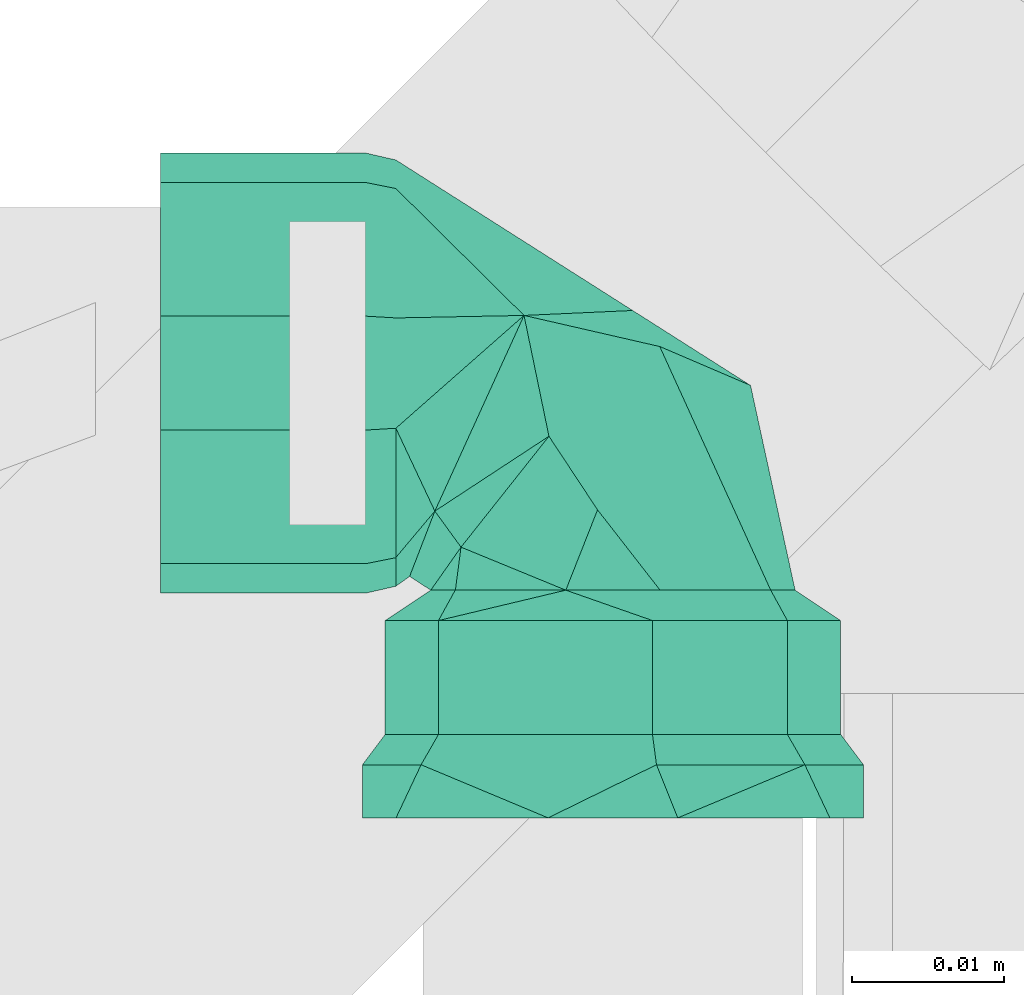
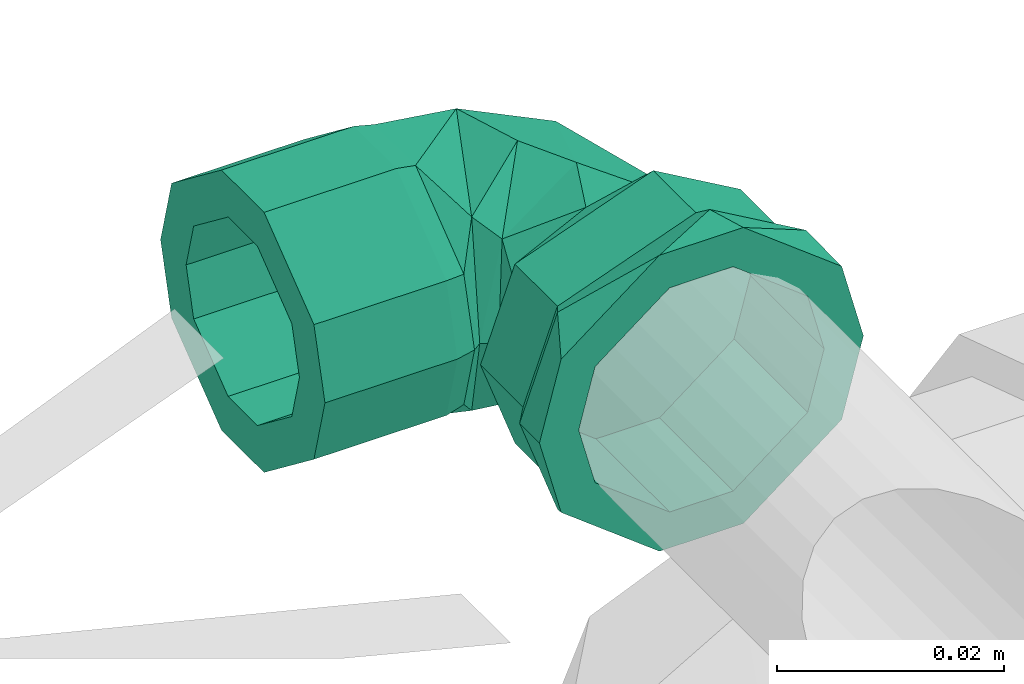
# One storey, part 377 of 589: 1 flow fitting.
"""IFC2X3 building model written with IfcOpenShell, lengths in millimetres."""

import ifcopenshell
import ifcopenshell.guid

model = None  # the IFC model being written
_history = None  # IfcOwnerHistory: only IFC2X3 demands one
_inside = {}  # id of a spatial element -> (the spatial element, [elements in it])
_under = {}  # id of a project, library or spatial element -> (it, [spatial elements below it])
_declared = {}  # id of a project -> (the project, [libraries it declares])
_typed = {}  # id of a type object -> (the type object, [elements of that type])
_made_of = {}  # id of a material, layer set ... -> (it, [elements and type objects made of it])


def new_model(schema):
    """Start an empty IFC model of exactly this schema.

    Asked for "IFC4X3", IfcOpenShell would pick the latest addendum, in which some entities
    have other attributes; the version numbers below select the first issue.
    IFC2X3 requires an IfcOwnerHistory on every rooted entity: one is made here for all.
    """
    global model, _history
    if schema == "IFC4X3":
        model = ifcopenshell.file(schema_version=(4, 3, 0, 0))
    else:
        model = ifcopenshell.file(schema=schema)
    _inside.clear()
    _under.clear()
    _declared.clear()
    _typed.clear()
    _made_of.clear()
    _history = None
    if model.schema == "IFC2X3":
        org = make("IfcOrganization", Name="unknown")
        user = make(
            "IfcPersonAndOrganization",
            ThePerson=make("IfcPerson", FamilyName="unknown"),
            TheOrganization=org,
        )
        app = make(
            "IfcApplication",
            ApplicationDeveloper=org,
            Version="unknown",
            ApplicationFullName="unknown",
            ApplicationIdentifier="unknown",
        )
        _history = make(
            "IfcOwnerHistory",
            OwningUser=user,
            OwningApplication=app,
            ChangeAction="ADDED",
            CreationDate=0,
        )
    return model


def make(cls, **values):
    """One entity of the class cls with the attributes given. An attribute that is None is left unset."""
    return model.create_entity(
        cls, **{name: value for name, value in values.items() if value is not None}
    )


def entity(cls, *values):
    """Any entity or typed value of the class cls, its attributes in the order of the schema. None: left unset."""
    e = model.create_entity(cls)
    for i, value in enumerate(values):
        if value is not None:
            e[i] = value
    return e


def rooted(cls, **values):
    """An entity with a GlobalId (a new one), such as an element, a storey or a relation."""
    return make(cls, GlobalId=ifcopenshell.guid.new(), OwnerHistory=_history, **values)


def si_unit(unit_type, name, prefix=None):
    """IfcSIUnit, for example si_unit("LENGTHUNIT", "METRE", prefix="MILLI")."""
    return make("IfcSIUnit", UnitType=unit_type, Prefix=prefix, Name=name)


def converted_unit(unit_type, name, factor, base, dimensions=None, offset=None):
    """IfcConversionBasedUnit, such as the inch: factor (a typed value) times the base unit."""
    return make(
        "IfcConversionBasedUnit"
        if offset is None
        else "IfcConversionBasedUnitWithOffset",
        ConversionOffset=offset,
        Dimensions=None
        if dimensions is None
        else entity("IfcDimensionalExponents", *dimensions),
        UnitType=unit_type,
        Name=name,
        ConversionFactor=make(
            "IfcMeasureWithUnit", ValueComponent=factor, UnitComponent=base
        ),
    )


def derived_unit(unit_type, elements):
    """IfcDerivedUnit: a product of units, each with its exponent."""
    return make(
        "IfcDerivedUnit",
        Elements=[
            make("IfcDerivedUnitElement", Unit=unit, Exponent=power)
            for unit, power in elements
        ],
        UnitType=unit_type,
    )


def assignment(units):
    """IfcUnitAssignment: the units of a project."""
    return None if units is None else make("IfcUnitAssignment", Units=units)


def point(xyz):
    """IfcCartesianPoint."""
    return None if xyz is None else make("IfcCartesianPoint", Coordinates=xyz)


def direction(xyz):
    """IfcDirection."""
    return None if xyz is None else make("IfcDirection", DirectionRatios=xyz)


def frame(location, z_axis=None, x_axis=None):
    """IfcAxis2Placement3D, a coordinate frame: its origin and axes. An axis left out is left unset."""
    return make(
        "IfcAxis2Placement3D",
        Location=point(location),
        Axis=direction(z_axis),
        RefDirection=direction(x_axis),
    )


def origin():
    """The frame at (0, 0, 0) with its axes left unset."""
    return frame((0.0, 0.0, 0.0))


def place(relative_to, where):
    """IfcLocalPlacement: puts the frame where relative to a parent placement (None: the world)."""
    return make(
        "IfcLocalPlacement", PlacementRelTo=relative_to, RelativePlacement=where
    )


def context(
    kind, dimensions, precision=None, world=None, true_north=None, identifier=None
):
    """IfcGeometricRepresentationContext, for example the 3D "Model" context."""
    return make(
        "IfcGeometricRepresentationContext",
        ContextIdentifier=identifier,
        ContextType=kind,
        CoordinateSpaceDimension=dimensions,
        Precision=precision,
        WorldCoordinateSystem=world,
        TrueNorth=true_north,
    )


def subcontext(parent, identifier, kind, view, scale=None):
    """IfcGeometricRepresentationSubContext, for example "Body" below "Model"."""
    return make(
        "IfcGeometricRepresentationSubContext",
        ContextIdentifier=identifier,
        ContextType=kind,
        ParentContext=parent,
        TargetScale=scale,
        TargetView=view,
    )


def project(units=None, contexts=None):
    """IfcProject with its units and contexts."""
    return rooted(
        "IfcProject",
        Name="project",
        RepresentationContexts=contexts,
        UnitsInContext=assignment(units),
    )


def spatial(cls, under=None, at=None, **own):
    """A site, building, storey or space (cls), placed at a placement, below another one or the project."""
    s = rooted(cls, ObjectPlacement=at, **own)
    if under is not None:
        _under.setdefault(under.id(), (under, []))[1].append(s)
    return s


def faces_of(points, faces, orient=None, outer=None):
    """IfcFace entities. A face is a list of loops; a loop is a list of indices into points, from 0.

    orient and outer hold one flag for each loop. By default every Orientation is true, the
    first loop of a face is its IfcFaceOuterBound and the others are IfcFaceBound.
    """
    made = []
    for i, loops in enumerate(faces):
        bounds = []
        for j, loop in enumerate(loops):
            is_outer = j == 0 if outer is None else outer[i][j]
            bounds.append(
                make(
                    "IfcFaceOuterBound" if is_outer else "IfcFaceBound",
                    Bound=make("IfcPolyLoop", Polygon=[points[k] for k in loop]),
                    Orientation=True if orient is None else orient[i][j],
                )
            )
        made.append(make("IfcFace", Bounds=bounds))
    return made


def faceted_brep(points, faces, orient=None, outer=None, voids=None):
    """IfcFacetedBrep: a solid bounded by flat faces; with voids (closed shells), ...WithVoids."""
    shared = [point(p) for p in points]
    hull = make("IfcClosedShell", CfsFaces=faces_of(shared, faces, orient, outer))
    if voids is None:
        return make("IfcFacetedBrep", Outer=hull)
    return make(
        "IfcFacetedBrepWithVoids",
        Outer=hull,
        Voids=[
            make(cls, CfsFaces=faces_of(shared, fs, o, b)) for cls, fs, o, b in voids
        ],
    )


def shape(context_of_items, identifier, shape_type, items):
    """IfcShapeRepresentation: the items that make up one representation, for example the "Body"."""
    return make(
        "IfcShapeRepresentation",
        ContextOfItems=context_of_items,
        RepresentationIdentifier=identifier,
        RepresentationType=shape_type,
        Items=items,
    )


def source(mapping_origin, context_of_items, identifier, shape_type, items):
    """IfcRepresentationMap: a shape defined once, which mapped items show again and again."""
    return make(
        "IfcRepresentationMap",
        MappingOrigin=mapping_origin,
        MappedRepresentation=shape(context_of_items, identifier, shape_type, items),
    )


def transform(
    local_origin,
    x_axis=None,
    y_axis=None,
    z_axis=None,
    scale=None,
    scale2=None,
    scale3=None,
    uniform=True,
):
    """IfcCartesianTransformationOperator3D, or its non-uniform kind. x_axis, y_axis, z_axis: its Axis1, 2, 3."""
    if uniform:
        return make(
            "IfcCartesianTransformationOperator3D",
            Axis1=direction(x_axis),
            Axis2=direction(y_axis),
            LocalOrigin=point(local_origin),
            Scale=scale,
            Axis3=direction(z_axis),
        )
    return make(
        "IfcCartesianTransformationOperator3DnonUniform",
        Axis1=direction(x_axis),
        Axis2=direction(y_axis),
        LocalOrigin=point(local_origin),
        Scale=scale,
        Axis3=direction(z_axis),
        Scale2=scale2,
        Scale3=scale3,
    )


def mapped(mapping_source, mapping_target):
    """IfcMappedItem: shows the shape of a source again, moved by a transform."""
    return make(
        "IfcMappedItem", MappingSource=mapping_source, MappingTarget=mapping_target
    )


def material(Name=None, Category=None):
    """IfcMaterial."""
    return make("IfcMaterial", Name=Name, Category=Category)


def made_of(thing, what):
    """Note that an element or type object is made of a material, layer set ...; save() writes the relation."""
    if what is not None:
        _made_of.setdefault(what.id(), (what, []))[1].append(thing)
    return thing


def type_object(cls, material=None, **own):
    """A type object (cls), such as IfcWallType, which elements share."""
    return made_of(rooted(cls, **own), material)


def type_shapes(of_type, sources):
    """Give a type object the sources (RepresentationMaps) that its elements show as mapped items."""
    of_type.RepresentationMaps = sources


def element(
    cls,
    number,
    at=None,
    inside=None,
    cuts=None,
    type_object=None,
    material=None,
    context=None,
    identifier="Body",
    shape_type=None,
    held_by="IfcProductDefinitionShape",
    body=None,
    shapes=None,
    **own,
):
    """One element of the class cls, such as IfcWall. Its Tag is "e" and its number.

    at: its placement. inside: the storey or other place that contains it. cuts: it is an
    opening in that element (IfcRelVoidsElement). A single representation is given by context,
    identifier, shape_type and body (its items); several are given by shapes. held_by: the class
    of the entity that holds the representations. save() writes the other relations.
    """
    e = rooted(cls, Tag="e%d" % number, ObjectPlacement=at, **own)
    if body is not None:
        shapes = [shape(context, identifier, shape_type, body)]
    if shapes is not None:
        e.Representation = make(held_by, Representations=shapes)
    if inside is not None:
        _inside.setdefault(inside.id(), (inside, []))[1].append(e)
    if cuts is not None:
        rooted(
            "IfcRelVoidsElement", RelatingBuildingElement=cuts, RelatedOpeningElement=e
        )
    if type_object is not None:
        _typed.setdefault(type_object.id(), (type_object, []))[1].append(e)
    return made_of(e, material)


def aggregate(whole, parts):
    """IfcRelAggregates: a whole, such as a stair, and the parts it consists of."""
    return rooted("IfcRelAggregates", RelatingObject=whole, RelatedObjects=parts)


def save(model, path):
    """Write the relations noted so far, then the file.

    IfcRelAggregates (storeys below a building ...), IfcRelContainedInSpatialStructure (elements
    in a storey), IfcRelDefinesByType, IfcRelAssociatesMaterial and IfcRelDeclares: one each for
    every whole, place, type object, material and project.
    """
    for whole, parts in _under.values():
        aggregate(whole, parts)
    for where, things in _inside.values():
        rooted(
            "IfcRelContainedInSpatialStructure",
            RelatedElements=things,
            RelatingStructure=where,
        )
    for kind, things in _typed.values():
        rooted("IfcRelDefinesByType", RelatedObjects=things, RelatingType=kind)
    for what, things in _made_of.values():
        rooted("IfcRelAssociatesMaterial", RelatedObjects=things, RelatingMaterial=what)
    for by, libraries in _declared.values():
        rooted("IfcRelDeclares", RelatingContext=by, RelatedDefinitions=libraries)
    model.write(path)


model = new_model("IFC2X3")

# Units and contexts
model_context = context("Model", 3, precision=0.01, world=origin(), true_north=direction((6.123031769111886e-17, 1.0)))
body_context = subcontext(model_context, "Body", "Model", "MODEL_VIEW")
ifc_project = project(units=[si_unit("LENGTHUNIT", "METRE", prefix="MILLI"), si_unit("AREAUNIT", "SQUARE_METRE"), si_unit("VOLUMEUNIT", "CUBIC_METRE"), converted_unit("PLANEANGLEUNIT", "DEGREE", entity("IfcRatioMeasure", 0.017453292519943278), si_unit("PLANEANGLEUNIT", "RADIAN"), dimensions=[0, 0, 0, 0, 0, 0, 0]), si_unit("MASSUNIT", "GRAM", prefix="KILO"), derived_unit("MASSDENSITYUNIT", [(si_unit("MASSUNIT", "GRAM", prefix="KILO"), 1), (si_unit("LENGTHUNIT", "METRE"), -3)]), derived_unit("IONCONCENTRATIONUNIT", [(si_unit("MASSUNIT", "GRAM", prefix="KILO"), 1), (si_unit("LENGTHUNIT", "METRE"), -3)]), derived_unit("MOMENTOFINERTIAUNIT", [(si_unit("LENGTHUNIT", "METRE"), 4)]), si_unit("TIMEUNIT", "SECOND"), si_unit("FREQUENCYUNIT", "HERTZ"), si_unit("THERMODYNAMICTEMPERATUREUNIT", "DEGREE_CELSIUS"), derived_unit("THERMALTRANSMITTANCEUNIT", [(si_unit("MASSUNIT", "GRAM", prefix="KILO"), 1), (si_unit("THERMODYNAMICTEMPERATUREUNIT", "KELVIN"), -1), (si_unit("TIMEUNIT", "SECOND"), -3)]), derived_unit("THERMALCONDUCTANCEUNIT", [(si_unit("MASSUNIT", "GRAM", prefix="KILO"), 1), (si_unit("THERMODYNAMICTEMPERATUREUNIT", "KELVIN"), -1), (si_unit("TIMEUNIT", "SECOND"), -3), (si_unit("LENGTHUNIT", "METRE"), 1)]), derived_unit("VOLUMETRICFLOWRATEUNIT", [(si_unit("LENGTHUNIT", "METRE"), 3), (si_unit("TIMEUNIT", "SECOND"), -1)]), derived_unit("MASSFLOWRATEUNIT", [(si_unit("MASSUNIT", "GRAM", prefix="KILO"), 1), (si_unit("TIMEUNIT", "SECOND"), -1)]), derived_unit("ROTATIONALFREQUENCYUNIT", [(si_unit("TIMEUNIT", "SECOND"), -1)]), si_unit("ELECTRICCURRENTUNIT", "AMPERE"), si_unit("ELECTRICVOLTAGEUNIT", "VOLT"), si_unit("POWERUNIT", "WATT"), si_unit("FORCEUNIT", "NEWTON", prefix="KILO"), si_unit("ILLUMINANCEUNIT", "LUX"), si_unit("LUMINOUSFLUXUNIT", "LUMEN"), si_unit("LUMINOUSINTENSITYUNIT", "CANDELA"), derived_unit("USERDEFINED", [(si_unit("MASSUNIT", "GRAM", prefix="KILO"), -1), (si_unit("LENGTHUNIT", "METRE"), -2), (si_unit("TIMEUNIT", "SECOND"), 3), (si_unit("LUMINOUSFLUXUNIT", "LUMEN"), 1)]), derived_unit("USERDEFINED", [(si_unit("MASSUNIT", "GRAM", prefix="KILO"), 1), (si_unit("TIMEUNIT", "SECOND"), -3), (si_unit("LENGTHUNIT", "METRE"), 3), (si_unit("ELECTRICCURRENTUNIT", "AMPERE"), -2)]), derived_unit("SOUNDPOWERUNIT", [(si_unit("MASSUNIT", "GRAM", prefix="KILO"), 1), (si_unit("TIMEUNIT", "SECOND"), -3), (si_unit("LENGTHUNIT", "METRE"), 2)]), derived_unit("SOUNDPRESSUREUNIT", [(si_unit("MASSUNIT", "GRAM", prefix="KILO"), 1), (si_unit("LENGTHUNIT", "METRE"), -1), (si_unit("TIMEUNIT", "SECOND"), -2)]), derived_unit("LINEARVELOCITYUNIT", [(si_unit("LENGTHUNIT", "METRE"), 1), (si_unit("TIMEUNIT", "SECOND"), -1)]), si_unit("PRESSUREUNIT", "PASCAL"), derived_unit("USERDEFINED", [(si_unit("MASSUNIT", "GRAM", prefix="KILO"), 1), (si_unit("LENGTHUNIT", "METRE"), -2), (si_unit("TIMEUNIT", "SECOND"), -2)]), derived_unit("LINEARFORCEUNIT", [(si_unit("MASSUNIT", "GRAM", prefix="KILO"), 1), (si_unit("TIMEUNIT", "SECOND"), -2)]), derived_unit("PLANARFORCEUNIT", [(si_unit("MASSUNIT", "GRAM", prefix="KILO"), 1), (si_unit("LENGTHUNIT", "METRE"), -1), (si_unit("TIMEUNIT", "SECOND"), -2)]), derived_unit("SPECIFICHEATCAPACITYUNIT", [(si_unit("THERMODYNAMICTEMPERATUREUNIT", "KELVIN"), -1), (si_unit("LENGTHUNIT", "METRE"), 2), (si_unit("TIMEUNIT", "SECOND"), -2)]), derived_unit("HEATINGVALUEUNIT", [(si_unit("LENGTHUNIT", "METRE"), 2), (si_unit("TIMEUNIT", "SECOND"), -2)]), derived_unit("VAPORPERMEABILITYUNIT", [(si_unit("LENGTHUNIT", "METRE"), -1), (si_unit("TIMEUNIT", "SECOND"), 1)]), derived_unit("DYNAMICVISCOSITYUNIT", [(si_unit("MASSUNIT", "GRAM", prefix="KILO"), 1), (si_unit("TIMEUNIT", "SECOND"), -1), (si_unit("LENGTHUNIT", "METRE"), -1)]), derived_unit("THERMALEXPANSIONCOEFFICIENTUNIT", [(si_unit("THERMODYNAMICTEMPERATUREUNIT", "KELVIN"), -1)]), derived_unit("MODULUSOFELASTICITYUNIT", [(si_unit("MASSUNIT", "GRAM", prefix="KILO"), 1), (si_unit("LENGTHUNIT", "METRE"), -1), (si_unit("TIMEUNIT", "SECOND"), -2)]), derived_unit("ISOTHERMALMOISTURECAPACITYUNIT", [(si_unit("LENGTHUNIT", "METRE"), 3), (si_unit("MASSUNIT", "GRAM", prefix="KILO"), -1)]), derived_unit("MOISTUREDIFFUSIVITYUNIT", [(si_unit("TIMEUNIT", "SECOND"), -1), (si_unit("LENGTHUNIT", "METRE"), 2)])], contexts=[model_context])

# Site, building, storey
site_placement = place(None, origin())
site = spatial("IfcSite", under=ifc_project, at=site_placement, Name="Default", CompositionType="ELEMENT")
building_placement = place(site_placement, origin())
building = spatial("IfcBuilding", under=site, at=building_placement, CompositionType="ELEMENT")
storey_placement = place(building_placement, frame((0.0, 0.0, 100.0)))
storey = spatial("IfcBuildingStorey", under=building, at=storey_placement, Name="TÉRREO", CompositionType="ELEMENT", Elevation=100.0)

# Flow fitting
ifc_material = material(Name="PVC Azul")
pipe_fitting_type = type_object("IfcPipeFittingType", Name="PVC Marrom Soldável_Joelho 90° Azul com Bucha de Latão_Rodrigo MEP:Joelho_20x1/2''_ 25x1/2''_ 25x3/4'' _ 32x3/4''", PredefinedType="NOTDEFINED", material=ifc_material)
shared_shape = source(origin(), body_context, "Body", "Brep", [
    faceted_brep([(-16.299999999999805, 3.7528761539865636, -14.005924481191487), (-16.299999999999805, 2.588190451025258, -9.659258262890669), (-16.299999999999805, -2.5881904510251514, -9.659258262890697), (-16.299999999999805, 12.557368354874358, -7.249999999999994), (-16.299999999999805, -3.7528761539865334, -14.005924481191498), (-16.299999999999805, 8.660254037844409, -5.0), (-16.299999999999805, 10.0, 0.0), (-16.299999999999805, 14.499999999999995, 0.0), (-16.299999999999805, 8.660254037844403, 5.0), (-16.299999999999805, 12.557368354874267, 7.250000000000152), (-16.299999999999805, 2.5881904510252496, 9.659258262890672), (-16.299999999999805, 3.752876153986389, 14.005924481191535), (-16.299999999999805, -2.5881904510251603, 9.659258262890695), (-16.299999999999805, -3.752876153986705, 14.005924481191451), (-16.299999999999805, -8.660254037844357, 5.0), (-16.299999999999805, -12.557368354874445, 7.2499999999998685), (-16.299999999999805, -14.500000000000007, 0.0), (-16.299999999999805, -10.0, 0.0), (-16.299999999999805, -12.557368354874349, -7.250000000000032), (-16.299999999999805, -8.660254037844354, -5.0), (-23.799999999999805, -12.557368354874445, 7.2499999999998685), (-25.7999999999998, -12.557368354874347, 7.250000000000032), (-29.7999999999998, -12.557368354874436, 7.24999999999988), (-29.7999999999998, -14.500000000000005, 0.0), (-25.7999999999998, -14.500000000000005, 0.0), (-23.799999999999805, -14.500000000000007, 0.0), (-23.799999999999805, -3.752876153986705, 14.005924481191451), (-25.7999999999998, -3.7528761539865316, 14.005924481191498), (-29.7999999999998, -3.7528761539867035, 14.005924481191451), (-23.799999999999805, 3.752876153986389, 14.005924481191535), (-25.7999999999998, 3.752876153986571, 14.005924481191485), (-29.7999999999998, 3.75287615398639, 14.005924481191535), (-23.799999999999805, 12.557368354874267, 7.250000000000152), (-25.7999999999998, 12.557368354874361, 7.24999999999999), (-29.7999999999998, 12.557368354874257, 7.250000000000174), (-23.799999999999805, 14.499999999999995, 0.0), (-25.7999999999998, 14.499999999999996, 0.0), (-29.7999999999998, 14.499999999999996, 0.0), (-23.799999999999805, 12.557368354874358, -7.249999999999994), (-25.7999999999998, 12.557368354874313, -7.250000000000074), (-29.7999999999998, 12.557368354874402, -7.249999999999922), (-23.799999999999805, 3.7528761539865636, -14.005924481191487), (-25.7999999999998, 3.752876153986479, -14.00592448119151), (-29.7999999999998, 3.752876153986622, -14.005924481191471), (-23.799999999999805, -3.7528761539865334, -14.005924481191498), (-25.7999999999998, -3.7528761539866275, -14.005924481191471), (-29.7999999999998, -3.752876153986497, -14.005924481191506), (-23.799999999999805, -12.557368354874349, -7.250000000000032), (-25.7999999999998, -12.55736835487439, -7.249999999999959), (-29.7999999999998, -12.557368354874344, -7.250000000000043), (-29.79999999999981, 10.0, 0.0), (-29.7999999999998, 8.660254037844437, 5.0), (-29.7999999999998, 2.5881904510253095, 9.659258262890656), (-29.7999999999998, -2.5881904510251, 9.659258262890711), (-29.7999999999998, -8.660254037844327, 5.0), (-29.7999999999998, -10.0, 0.0), (-29.7999999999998, -8.660254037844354, -5.0), (-29.7999999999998, -2.588190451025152, -9.659258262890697), (-29.7999999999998, 2.588190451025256, -9.659258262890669), (-29.7999999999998, 8.66025403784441, -5.0)], [[[0, 1, 2]], [[1, 0, 3]], [[2, 4, 0]], [[3, 5, 1]], [[3, 6, 5]], [[6, 3, 7]], [[8, 6, 7]], [[8, 7, 9]], [[9, 10, 8]], [[9, 11, 10]], [[10, 11, 12]], [[13, 12, 11]], [[13, 14, 12]], [[14, 13, 15]], [[16, 14, 15]], [[17, 14, 16]], [[18, 17, 16]], [[18, 19, 17]], [[19, 18, 4]], [[4, 2, 19]], [[20, 21, 22, 23, 24, 25, 16, 15]], [[26, 27, 28, 22, 21, 20, 15, 13]], [[13, 11, 29, 30, 31, 28, 27, 26]], [[32, 33, 34, 31, 30, 29, 11, 9]], [[35, 36, 37, 34, 33, 32, 9, 7]], [[38, 39, 40, 37, 36, 35, 7, 3]], [[41, 42, 43, 40, 39, 38, 3, 0]], [[0, 4, 44, 45, 46, 43, 42, 41]], [[47, 48, 49, 46, 45, 44, 4, 18]], [[25, 24, 23, 49, 48, 47, 18, 16]], [[50, 6, 8, 51]], [[51, 8, 10, 52]], [[10, 12, 53, 52]], [[53, 12, 14, 54]], [[54, 14, 17, 55]], [[55, 17, 19, 56]], [[56, 19, 2, 57]], [[2, 1, 58, 57]], [[58, 1, 5, 59]], [[59, 5, 6, 50]], [[57, 58, 43]], [[43, 46, 57]], [[56, 57, 46]], [[40, 43, 58]], [[58, 59, 40]], [[59, 50, 40]], [[37, 40, 50]], [[37, 50, 51]], [[34, 37, 51]], [[51, 52, 34]], [[52, 31, 34]], [[53, 31, 52]], [[31, 53, 28]], [[53, 54, 28]], [[22, 28, 54]], [[22, 54, 23]], [[23, 54, 55]], [[55, 56, 49]], [[23, 55, 49]], [[46, 49, 56]]]),
    faceted_brep([(-16.299999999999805, 14.499999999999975, 0.0), (-16.299999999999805, 12.557368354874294, -7.250000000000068), (-16.299999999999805, 3.7528761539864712, -14.005924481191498), (-16.299999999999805, -3.75287615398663, -14.005924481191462), (-16.299999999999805, -12.557368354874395, -7.249999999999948), (-16.299999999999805, -14.500000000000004, 0.0), (-16.299999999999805, -12.557368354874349, 7.250000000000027), (-16.299999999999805, -3.752876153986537, 14.005924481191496), (-16.299999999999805, 3.752876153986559, 14.005924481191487), (-16.299999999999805, 12.55736835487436, 7.249999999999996), (-14.299999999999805, 12.158996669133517, 7.019999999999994), (-14.299999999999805, 3.633819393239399, 13.561598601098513), (-14.299999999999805, -3.6338193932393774, 13.56159860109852), (-14.299999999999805, -12.158996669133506, 7.020000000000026), (-14.299999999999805, -14.040000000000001, 0.0), (-14.299999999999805, -12.158996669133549, -7.01999999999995), (-14.299999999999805, -3.633819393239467, -13.561598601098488), (-14.299999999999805, 3.6338193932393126, -13.561598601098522), (-14.299999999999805, 12.158996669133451, -7.020000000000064), (-14.299999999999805, 14.039999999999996, 0.0)], [[[0, 1, 2, 3, 4, 5, 6, 7, 8, 9]], [[10, 11, 12, 13, 14, 15, 16, 17, 18, 19]], [[15, 14, 5, 4]], [[16, 15, 4, 3]], [[3, 2, 17, 16]], [[18, 17, 2, 1]], [[19, 18, 1, 0]], [[10, 19, 0, 9]], [[11, 10, 9, 8]], [[8, 7, 12, 11]], [[13, 12, 7, 6]], [[14, 13, 6, 5]]]),
    faceted_brep([(10.392304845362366, -14.30000000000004, 6.0), (12.0, -14.30000000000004, 0.0), (10.392304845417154, -14.30000000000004, -6.0), (3.1058285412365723, -14.30000000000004, -11.591109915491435), (-3.105828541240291, -14.30000000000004, -11.591109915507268), (-10.392304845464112, -14.30000000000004, -6.0), (-12.0, -14.30000000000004, 0.0), (-10.392304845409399, -14.30000000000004, 6.0), (-3.1058285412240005, -14.30000000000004, 11.591109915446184), (3.105828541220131, -14.30000000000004, 11.59110991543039), (11.490129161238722, -16.29999999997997, -9.64245465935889), (15.0, -16.300000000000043, 0.0), (-2.606781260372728, -16.29999999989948, -14.771753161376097), (-15.0, -16.299999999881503, 0.0), (-11.492547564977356, -16.299999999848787, -9.639572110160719), (-11.4925475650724, -16.300000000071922, 9.639572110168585), (2.603075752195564, -16.30000000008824, 14.77240659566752), (11.490129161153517, -16.300000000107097, 9.642454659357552), (11.490129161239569, -23.800000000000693, 9.64245465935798), (15.0, -23.800000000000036, 0.0), (2.6030757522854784, -23.800000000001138, 14.772406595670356), (-15.0, -23.800000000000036, 0.0), (-11.492547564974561, -23.800000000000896, 9.63957211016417), (-11.492547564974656, -23.79999999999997, -9.639572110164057), (-2.606781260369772, -23.799999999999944, -14.77175316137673), (11.4901291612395, -23.799999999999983, -9.642454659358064), (-12.639142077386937, -25.800000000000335, 10.606700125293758), (-16.500000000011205, -25.800000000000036, 0.0), (2.867459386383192, -25.800000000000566, 16.248928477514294), (12.641802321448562, -25.800000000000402, 10.603529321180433), (16.499999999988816, -25.800000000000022, 0.0), (12.641802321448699, -25.800000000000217, -10.603529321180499), (-2.8633833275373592, -25.80000000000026, -16.24964725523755), (-12.639142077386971, -25.800000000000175, -10.606700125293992), (3.235238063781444, -29.30000000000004, -12.074072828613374), (-3.235238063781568, -29.30000000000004, -12.074072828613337), (-4.270514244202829, -29.30000000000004, -15.937776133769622), (4.27051424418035, -29.30000000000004, -15.937776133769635), (10.825317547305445, -29.30000000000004, -6.250000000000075), (-14.28941916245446, -29.30000000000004, -8.249999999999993), (-10.825317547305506, -29.30000000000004, -6.249999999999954), (-12.499999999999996, -29.30000000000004, 0.0), (-16.500000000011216, -29.30000000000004, 0.0), (-10.825317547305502, -29.30000000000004, 6.249999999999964), (-14.289419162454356, -29.30000000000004, 8.250000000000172), (-3.2352380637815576, -29.30000000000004, 12.074072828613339), (-4.27051424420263, -29.30000000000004, 15.937776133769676), (3.235238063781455, -29.30000000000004, 12.07407282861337), (4.2705142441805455, -29.30000000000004, 15.937776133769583), (10.82531754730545, -29.30000000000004, 6.250000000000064), (14.289419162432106, -29.30000000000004, 8.249999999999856), (16.499999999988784, -29.30000000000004, 0.0), (12.500000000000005, -29.30000000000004, 0.0), (14.289419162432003, -29.30000000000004, -8.250000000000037), (3.235238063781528, -16.30000000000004, -12.07407282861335), (10.82531754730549, -16.300000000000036, -6.249999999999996), (12.500000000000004, -16.300000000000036, 0.0), (10.825317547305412, -16.300000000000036, 6.250000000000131), (3.2352380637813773, -16.30000000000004, 12.07407282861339), (-3.2352380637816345, -16.30000000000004, 12.074072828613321), (-10.825317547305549, -16.300000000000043, 6.249999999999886), (-12.499999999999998, -16.300000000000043, 0.0), (-10.825317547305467, -16.300000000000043, -6.2500000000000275), (-3.2352380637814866, -16.30000000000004, -12.07407282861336)], [[[0, 1, 2, 3, 4, 5, 6, 7, 8, 9]], [[10, 3, 2]], [[11, 2, 1]], [[10, 2, 11]], [[10, 12, 3]], [[13, 6, 5]], [[14, 5, 4]], [[12, 14, 4]], [[13, 5, 14]], [[3, 12, 4]], [[15, 8, 7]], [[13, 7, 6]], [[15, 7, 13]], [[15, 16, 8]], [[11, 1, 0]], [[17, 0, 9]], [[16, 17, 9]], [[11, 0, 17]], [[8, 16, 9]], [[11, 17, 18, 19]], [[20, 18, 17, 16]], [[15, 13, 21, 22]], [[16, 15, 22, 20]], [[13, 14, 23, 21]], [[24, 23, 14, 12]], [[10, 11, 19, 25]], [[12, 10, 25, 24]], [[26, 20, 22]], [[27, 22, 21]], [[26, 22, 27]], [[26, 28, 20]], [[29, 19, 18]], [[18, 28, 29]], [[19, 29, 30]], [[20, 28, 18]], [[31, 25, 19]], [[19, 30, 31]], [[25, 31, 32]], [[32, 24, 25]], [[27, 21, 23]], [[24, 33, 23]], [[27, 23, 33]], [[32, 33, 24]], [[34, 35, 36]], [[36, 37, 34]], [[38, 34, 37]], [[39, 36, 35]], [[35, 40, 39]], [[40, 41, 39]], [[42, 39, 41]], [[42, 41, 43]], [[44, 42, 43]], [[43, 45, 44]], [[45, 46, 44]], [[47, 46, 45]], [[46, 47, 48]], [[47, 49, 48]], [[50, 48, 49]], [[50, 49, 51]], [[51, 49, 52]], [[52, 38, 53]], [[51, 52, 53]], [[37, 53, 38]], [[30, 50, 51]], [[30, 29, 50]], [[48, 50, 29]], [[28, 48, 29]], [[44, 46, 26]], [[42, 44, 27]], [[28, 26, 46]], [[27, 44, 26]], [[48, 28, 46]], [[27, 39, 42]], [[27, 33, 39]], [[36, 39, 33]], [[32, 36, 33]], [[53, 37, 31]], [[51, 53, 30]], [[32, 31, 37]], [[30, 53, 31]], [[36, 32, 37]], [[54, 55, 56, 57, 58, 59, 60, 61, 62, 63]], [[41, 61, 60, 43]], [[43, 60, 59, 45]], [[59, 58, 47, 45]], [[47, 58, 57, 49]], [[49, 57, 56, 52]], [[52, 56, 55, 38]], [[38, 55, 54, 34]], [[54, 63, 35, 34]], [[35, 63, 62, 40]], [[40, 62, 61, 41]]]),
    faceted_brep([(-10.380105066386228, -14.300000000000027, 5.994904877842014), (-12.0, -14.300000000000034, 0.0), (-10.38010506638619, -14.300000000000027, -5.994904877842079), (-3.10520360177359, -14.300000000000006, -11.590281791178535), (3.1056480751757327, -14.299999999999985, -11.590538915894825), (10.39180953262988, -14.299999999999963, -5.999601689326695), (12.0, -14.299999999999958, 0.0), (10.391809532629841, -14.299999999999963, 5.999601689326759), (3.1056480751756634, -14.299999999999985, 11.590538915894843), (-3.1052036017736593, -14.300000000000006, 11.590281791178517), (-14.299999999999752, 14.039999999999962, 0.0), (-14.299999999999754, 12.158417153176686, -7.019533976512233), (-14.299999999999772, 3.633608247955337, -13.560930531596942), (-14.299999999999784, -3.63308821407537, -13.560629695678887), (-14.299999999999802, -12.144722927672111, -7.0140387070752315), (-14.299999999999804, -14.040000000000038, 0.0), (-14.299999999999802, -12.144722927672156, 7.014038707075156), (-14.299999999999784, -3.633088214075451, 13.560629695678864), (-14.299999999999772, 3.6336082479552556, 13.560930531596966), (-14.299999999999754, 12.158417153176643, 7.019533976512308), (-5.857563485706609, 3.7986719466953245, -12.221235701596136), (-11.731981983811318, -9.090980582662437, -10.425762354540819), (-13.394903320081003, -13.394903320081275, 0.0), (-1.015336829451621, -9.007807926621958, -12.492335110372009), (9.064122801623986, -0.8105717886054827, 0.0), (3.0828619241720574, 1.750099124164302, -8.976245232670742), (1.2995100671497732, 4.124727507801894, 0.0), (-10.008512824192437, -11.46627786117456, -8.88261575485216), (-4.216463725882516, -4.16036367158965, -13.02360333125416), (-5.857564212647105, 3.7986709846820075, 12.221236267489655), (-11.731981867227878, -9.090980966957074, 10.425762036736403), (-10.008512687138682, -11.466278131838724, 8.882615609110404), (-4.216465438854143, -4.1603653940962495, 13.02360333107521), (-1.0153385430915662, -9.00780860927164, 12.492335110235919), (3.0828610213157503, 1.7500995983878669, 8.97624566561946)], [[[0, 1, 2, 3, 4, 5, 6, 7, 8, 9]], [[10, 11, 12, 13, 14, 15, 16, 17, 18, 19]], [[11, 20, 12]], [[14, 21, 22]], [[5, 4, 23]], [[24, 25, 26]], [[27, 28, 23]], [[5, 24, 6]], [[25, 23, 28]], [[5, 25, 24]], [[11, 26, 20]], [[28, 21, 20]], [[25, 5, 23]], [[27, 21, 28]], [[21, 14, 13]], [[11, 10, 26]], [[22, 15, 14]], [[22, 21, 27]], [[25, 28, 20]], [[23, 3, 27]], [[1, 22, 27]], [[27, 2, 1]], [[3, 2, 27]], [[13, 20, 21]], [[12, 20, 13]], [[23, 4, 3]], [[26, 25, 20]], [[16, 15, 22]], [[29, 17, 30]], [[0, 9, 31]], [[30, 31, 32]], [[32, 33, 34]], [[1, 31, 22]], [[29, 32, 34]], [[33, 32, 31]], [[30, 17, 16]], [[9, 33, 31]], [[0, 31, 1]], [[31, 30, 22]], [[26, 19, 29]], [[26, 10, 19]], [[26, 34, 24]], [[24, 34, 7]], [[26, 29, 34]], [[34, 33, 7]], [[16, 22, 30]], [[7, 6, 24]], [[8, 7, 33]], [[17, 29, 18]], [[18, 29, 19]], [[33, 9, 8]], [[30, 32, 29]]]),
])
type_shapes(pipe_fitting_type, [shared_shape])
flow_fitting_placement = place(storey_placement, frame((341.44239219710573, -6197.531283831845, 600.0009352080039)))
element("IfcFlowFitting", 1, at=flow_fitting_placement, inside=storey, type_object=pipe_fitting_type, material=ifc_material, Name="PVC Marrom Soldável_Joelho 90° Azul com Bucha de Latão_Rodrigo MEP:Joelho_20x1/2''_ 25x1/2''_ 25x3/4'' _ 32x3/4''", ObjectType="PVC Marrom Soldável_Joelho 90° Azul com Bucha de Latão_Rodrigo MEP:Joelho_20x1/2''_ 25x1/2''_ 25x3/4'' _ 32x3/4''", context=body_context, shape_type="MappedRepresentation", body=[
    mapped(shared_shape, transform((0.0, 0.0, 0.0), scale=1.0)),
])

save(model, "model.ifc")
